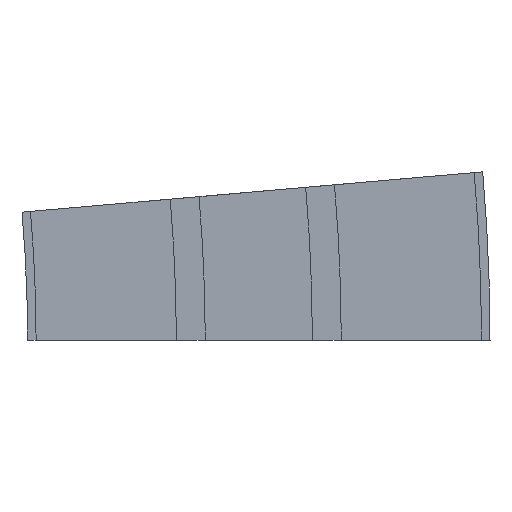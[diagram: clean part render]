
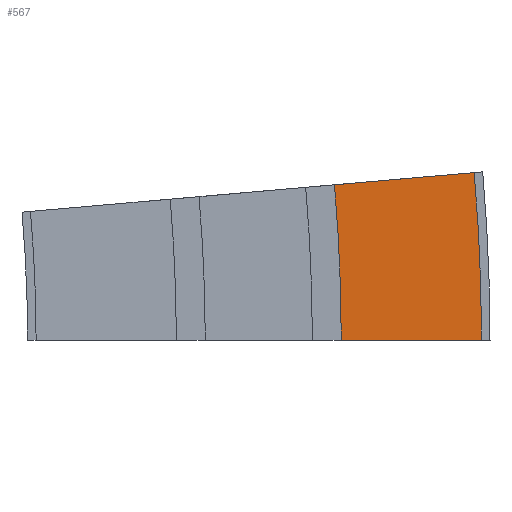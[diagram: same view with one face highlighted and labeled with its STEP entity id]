
A CAD part, left-side view. The second image highlights one B-rep face of the part: STEP entity #567.
In plain terms, the highlighted planar face has unit normal (-1, 0, 0).
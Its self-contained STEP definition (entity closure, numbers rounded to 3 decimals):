
#58 = DIRECTION ( 'NONE',  ( 0., -1., 0. ) ) ;
#59 = CARTESIAN_POINT ( 'NONE',  ( -325.25, -24.25, 0. ) ) ;
#61 = CARTESIAN_POINT ( 'NONE',  ( -325.25, 500., 0. ) ) ;
#62 = DIRECTION ( 'NONE',  ( 1., 0., 0. ) ) ;
#63 = DIRECTION ( 'NONE',  ( 0., 0., -1. ) ) ;
#64 = CARTESIAN_POINT ( 'NONE',  ( -325.25, -22.255, 45.691 ) ) ;
#65 = DIRECTION ( 'NONE',  ( 0., -0.996, 0.087 ) ) ;
#298 = CARTESIAN_POINT ( 'NONE',  ( -325.25, -63.348, 49.287 ) ) ;
#300 = CARTESIAN_POINT ( 'NONE',  ( -325.25, -22.255, 45.691 ) ) ;
#303 = CARTESIAN_POINT ( 'NONE',  ( -325.25, -65.5, 0. ) ) ;
#310 = CARTESIAN_POINT ( 'NONE',  ( -325.25, -24.25, 0. ) ) ;
#353 = CARTESIAN_POINT ( 'NONE',  ( -325.25, 500., 0. ) ) ;
#354 = DIRECTION ( 'NONE',  ( 1., 0., 0. ) ) ;
#355 = DIRECTION ( 'NONE',  ( 0., 0., -1. ) ) ;
#399 = EDGE_LOOP ( 'NONE', ( #427, #426, #425, #424 ) ) ;
#424 = ORIENTED_EDGE ( 'NONE', *, *, #1015, .T. ) ;
#425 = ORIENTED_EDGE ( 'NONE', *, *, #998, .T. ) ;
#426 = ORIENTED_EDGE ( 'NONE', *, *, #1013, .F. ) ;
#427 = ORIENTED_EDGE ( 'NONE', *, *, #1011, .F. ) ;
#567 = ADVANCED_FACE ( 'NONE', ( #705 ), #602, .F. ) ;
#600 = CARTESIAN_POINT ( 'NONE',  ( -325.25, -22.255, 45.691 ) ) ;
#602 = PLANE ( 'NONE',  #873 ) ;
#604 = DIRECTION ( 'NONE',  ( 1., 0., 0. ) ) ;
#605 = DIRECTION ( 'NONE',  ( 0., 0., -1. ) ) ;
#629 = VERTEX_POINT ( 'NONE', #298 ) ;
#631 = VERTEX_POINT ( 'NONE', #300 ) ;
#636 = VERTEX_POINT ( 'NONE', #303 ) ;
#643 = VERTEX_POINT ( 'NONE', #310 ) ;
#705 = FACE_OUTER_BOUND ( 'NONE', #399, .T. ) ;
#833 = CIRCLE ( 'NONE', #918, 524.25 ) ;
#860 = CIRCLE ( 'NONE', #921, 565.5 ) ;
#862 = LINE ( 'NONE', #64, #865 ) ;
#865 = VECTOR ( 'NONE', #65, 1000. ) ;
#866 = LINE ( 'NONE', #59, #868 ) ;
#868 = VECTOR ( 'NONE', #58, 1000. ) ;
#873 = AXIS2_PLACEMENT_3D ( 'NONE', #600, #604, #605 ) ;
#918 = AXIS2_PLACEMENT_3D ( 'NONE', #353, #354, #355 ) ;
#921 = AXIS2_PLACEMENT_3D ( 'NONE', #61, #62, #63 ) ;
#998 = EDGE_CURVE ( 'NONE', #631, #643, #833, .T. ) ;
#1011 = EDGE_CURVE ( 'NONE', #629, #636, #860, .T. ) ;
#1013 = EDGE_CURVE ( 'NONE', #631, #629, #862, .T. ) ;
#1015 = EDGE_CURVE ( 'NONE', #643, #636, #866, .T. ) ;
